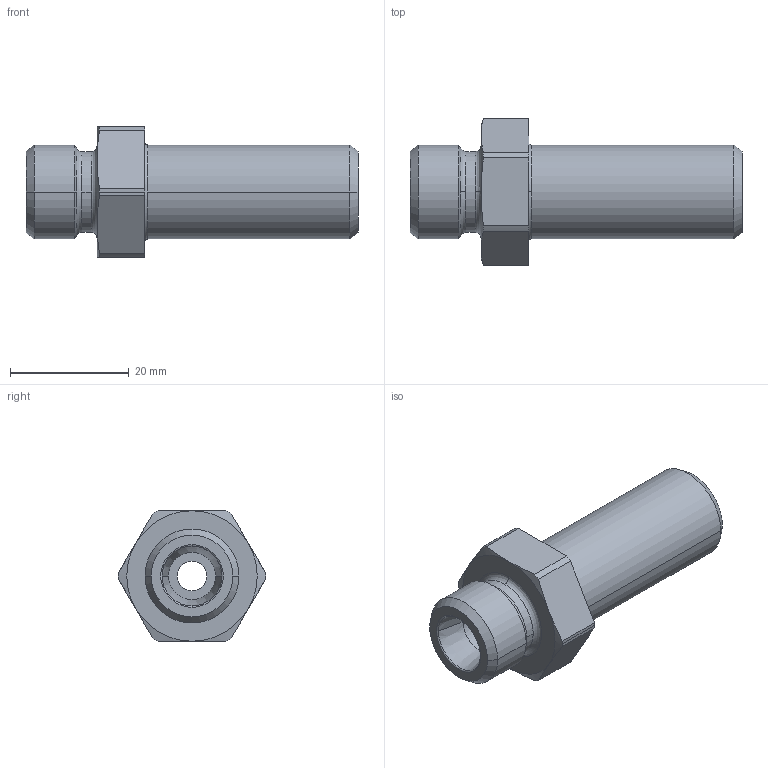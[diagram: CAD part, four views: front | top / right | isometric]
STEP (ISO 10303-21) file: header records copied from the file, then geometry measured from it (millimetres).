
FILE_DESCRIPTION((''),'2;1');
FILE_NAME('103615.stp','2007-10-31T11:39:09',(''),(''),'AutoCAD STEP 2000i','AutoCAD 2000i',', , ');
FILE_SCHEMA(('CONFIG_CONTROL_DESIGN'));
Length unit declared in the file: millimetre
Products named in the file (2): 103615.0; CHIAVE SMUSSX1036#0
Assembly tree (1 placements, depth 2):
  103615.0
    CHIAVE SMUSSX1036#0
Bounding box: 56 x 24.8 x 22 mm (x, y, z)
Volume: 10891.2 mm3; surface area: 4721 mm2
Topology: 1 solids, 1 shells, 58 faces, 144 edges, 92 vertices
Faces by surface type: cylinder 20, cone 16, plane 12, bspline 6, torus 4
Entity records: 2103 total; most frequent: CARTESIAN_POINT 584, DIRECTION 330, ORIENTED_EDGE 288, AXIS2_PLACEMENT_3D 144, EDGE_CURVE 144, VERTEX_POINT 92, CIRCLE 90, EDGE_LOOP 64
